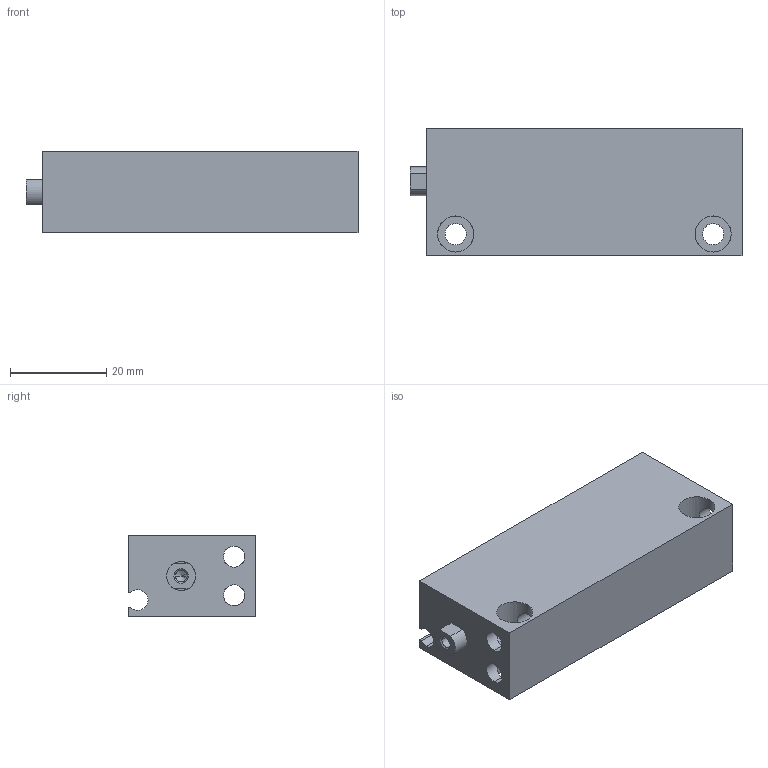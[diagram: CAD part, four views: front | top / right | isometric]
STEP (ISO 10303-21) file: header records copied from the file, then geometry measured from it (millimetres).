
FILE_DESCRIPTION (( 'STEP AP203' ), '1' );
FILE_NAME ('CLJB12-50.STEP', '2020-07-30T19:22:23', ( '' ), ( '' ), 'SwSTEP 2.0', 'SolidWorks 2019', '' );
FILE_SCHEMA (( 'CONFIG_CONTROL_DESIGN' ));
Length unit declared in the file: millimetre
Products named in the file (1): CLJB12-50
Bounding box: 69 x 26.5 x 17 mm (x, y, z)
Volume: 21464.8 mm3; surface area: 12825 mm2
Topology: 2 solids, 2 shells, 75 faces, 188 edges, 113 vertices
Faces by surface type: cylinder 41, plane 22, cone 12
Entity records: 3119 total; most frequent: CARTESIAN_POINT 1223, DIRECTION 394, ORIENTED_EDGE 364, EDGE_CURVE 182, AXIS2_PLACEMENT_3D 152, VERTEX_POINT 113, EDGE_LOOP 93, VECTOR 90
